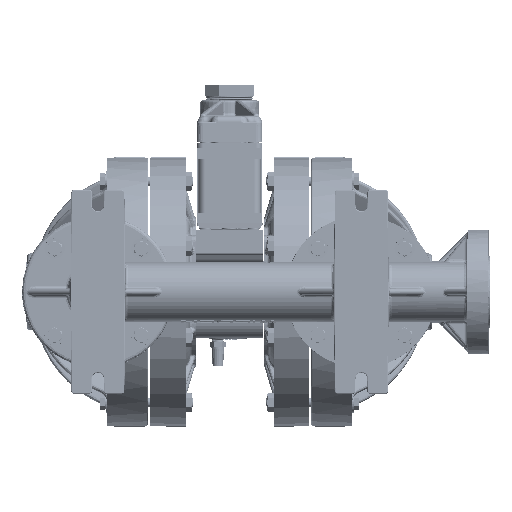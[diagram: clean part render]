
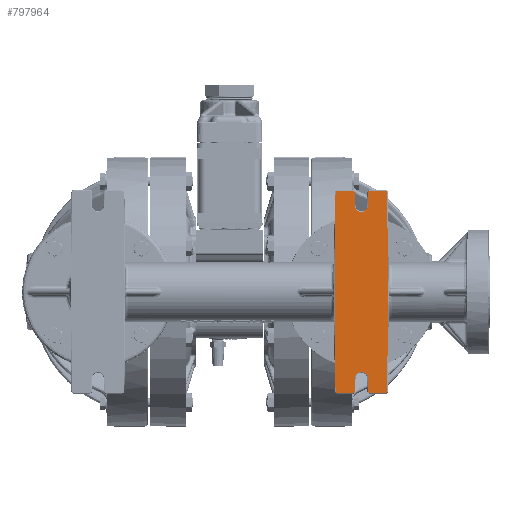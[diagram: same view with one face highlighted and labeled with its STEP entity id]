
A CAD part, front view. The second image highlights one B-rep face of the part: STEP entity #797964.
In plain terms, the highlighted planar face has unit normal (0, -1, 0).
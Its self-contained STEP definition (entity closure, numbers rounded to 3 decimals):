
#545171=DIRECTION('',(-0.009,0.,-1.));
#545172=VECTOR('',#545171,3.976);
#545173=CARTESIAN_POINT('',(4.244,-12.956,3.976));
#545174=LINE('',#545173,#545172);
#545205=DIRECTION('',(1.,0.,0.));
#545206=VECTOR('',#545205,0.606);
#545207=CARTESIAN_POINT('',(4.324,-12.956,-4.055));
#545208=LINE('',#545207,#545206);
#545218=CARTESIAN_POINT('',(4.931,-12.956,-3.975));
#545219=DIRECTION('',(0.,-1.,0.));
#545220=DIRECTION('',(0.,0.,-1.));
#545221=AXIS2_PLACEMENT_3D('',#545218,#545219,#545220);
#545233=DIRECTION('',(0.009,0.,1.));
#545234=VECTOR('',#545233,0.506);
#545235=CARTESIAN_POINT('',(5.011,-12.956,-3.976));
#545236=LINE('',#545235,#545234);
#545267=CARTESIAN_POINT('',(5.28,-12.956,-3.47));
#545268=DIRECTION('',(0.,1.,0.));
#545269=DIRECTION('',(-1.,0.,0.001));
#545270=AXIS2_PLACEMENT_3D('',#545267,#545268,#545269);
#545277=DIRECTION('',(0.009,0.,-1.));
#545278=VECTOR('',#545277,0.506);
#545279=CARTESIAN_POINT('',(5.544,-12.956,-3.47));
#545280=LINE('',#545279,#545278);
#545306=CARTESIAN_POINT('',(5.628,-12.956,-3.975));
#545307=DIRECTION('',(0.,-1.,0.));
#545308=DIRECTION('',(-1.,0.,-0.009));
#545309=AXIS2_PLACEMENT_3D('',#545306,#545307,#545308);
#545321=DIRECTION('',(1.,0.,0.));
#545322=VECTOR('',#545321,0.606);
#545323=CARTESIAN_POINT('',(5.628,-12.956,-4.055));
#545324=LINE('',#545323,#545322);
#545334=CARTESIAN_POINT('',(6.235,-12.956,-3.975));
#545335=DIRECTION('',(0.,-1.,0.));
#545336=DIRECTION('',(0.,0.,-1.));
#545337=AXIS2_PLACEMENT_3D('',#545334,#545335,#545336);
#545349=DIRECTION('',(0.009,0.,1.));
#545350=VECTOR('',#545349,3.976);
#545351=CARTESIAN_POINT('',(6.315,-12.956,-3.976));
#545352=LINE('',#545351,#545350);
#545362=DIRECTION('',(-0.009,0.,1.));
#545363=VECTOR('',#545362,3.976);
#545364=CARTESIAN_POINT('',(6.349,-12.956,0.));
#545365=LINE('',#545364,#545363);
#545391=CARTESIAN_POINT('',(6.235,-12.956,3.975));
#545392=DIRECTION('',(0.,-1.,0.));
#545393=DIRECTION('',(1.,0.,0.009));
#545394=AXIS2_PLACEMENT_3D('',#545391,#545392,#545393);
#545406=DIRECTION('',(-1.,0.,0.));
#545407=VECTOR('',#545406,0.606);
#545408=CARTESIAN_POINT('',(6.235,-12.956,4.055));
#545409=LINE('',#545408,#545407);
#545419=CARTESIAN_POINT('',(5.628,-12.956,3.975));
#545420=DIRECTION('',(0.,-1.,0.));
#545421=DIRECTION('',(0.,0.,1.));
#545422=AXIS2_PLACEMENT_3D('',#545419,#545420,#545421);
#545434=DIRECTION('',(-0.009,0.,-1.));
#545435=VECTOR('',#545434,0.506);
#545436=CARTESIAN_POINT('',(5.548,-12.956,3.976));
#545437=LINE('',#545436,#545435);
#545468=CARTESIAN_POINT('',(5.28,-12.956,3.47));
#545469=DIRECTION('',(0.,1.,0.));
#545470=DIRECTION('',(1.,0.,-0.001));
#545471=AXIS2_PLACEMENT_3D('',#545468,#545469,#545470);
#545478=DIRECTION('',(-0.009,0.,1.));
#545479=VECTOR('',#545478,0.506);
#545480=CARTESIAN_POINT('',(5.015,-12.956,3.47));
#545481=LINE('',#545480,#545479);
#545507=CARTESIAN_POINT('',(4.931,-12.956,3.975));
#545508=DIRECTION('',(0.,-1.,0.));
#545509=DIRECTION('',(1.,0.,0.009));
#545510=AXIS2_PLACEMENT_3D('',#545507,#545508,#545509);
#545522=DIRECTION('',(-1.,0.,0.));
#545523=VECTOR('',#545522,0.606);
#545524=CARTESIAN_POINT('',(4.931,-12.956,4.055));
#545525=LINE('',#545524,#545523);
#545535=CARTESIAN_POINT('',(4.324,-12.956,3.975));
#545536=DIRECTION('',(0.,-1.,0.));
#545537=DIRECTION('',(0.,0.,1.));
#545538=AXIS2_PLACEMENT_3D('',#545535,#545536,#545537);
#548453=CARTESIAN_POINT('',(4.324,-12.956,-3.975));
#548454=DIRECTION('',(0.,-1.,0.));
#548455=DIRECTION('',(-1.,0.,-0.009));
#548456=AXIS2_PLACEMENT_3D('',#548453,#548454,#548455);
#548468=DIRECTION('',(0.009,0.,-1.));
#548469=VECTOR('',#548468,3.976);
#548470=CARTESIAN_POINT('',(4.21,-12.956,0.));
#548471=LINE('',#548470,#548469);
#667556=CARTESIAN_POINT('',(4.324,-12.956,-4.055));
#667557=CARTESIAN_POINT('',(4.931,-12.956,-4.055));
#667558=VERTEX_POINT('',#667556);
#667559=VERTEX_POINT('',#667557);
#667564=CARTESIAN_POINT('',(5.544,-12.956,-3.47));
#667565=CARTESIAN_POINT('',(5.548,-12.956,-3.976));
#667566=VERTEX_POINT('',#667564);
#667567=VERTEX_POINT('',#667565);
#667572=CARTESIAN_POINT('',(5.015,-12.956,-3.47));
#667573=VERTEX_POINT('',#667572);
#667576=CARTESIAN_POINT('',(5.011,-12.956,-3.976));
#667577=VERTEX_POINT('',#667576);
#667580=CARTESIAN_POINT('',(5.628,-12.956,-4.055));
#667581=CARTESIAN_POINT('',(6.235,-12.956,-4.055));
#667582=VERTEX_POINT('',#667580);
#667583=VERTEX_POINT('',#667581);
#667627=CARTESIAN_POINT('',(4.21,-12.956,0.));
#667628=CARTESIAN_POINT('',(4.244,-12.956,-3.976));
#667629=VERTEX_POINT('',#667627);
#667630=VERTEX_POINT('',#667628);
#667635=CARTESIAN_POINT('',(4.244,-12.956,3.976));
#667636=VERTEX_POINT('',#667635);
#667663=CARTESIAN_POINT('',(5.548,-12.956,3.976));
#667664=CARTESIAN_POINT('',(5.544,-12.956,3.47));
#667665=VERTEX_POINT('',#667663);
#667666=VERTEX_POINT('',#667664);
#667671=CARTESIAN_POINT('',(5.015,-12.956,3.47));
#667672=CARTESIAN_POINT('',(5.011,-12.956,3.976));
#667673=VERTEX_POINT('',#667671);
#667674=VERTEX_POINT('',#667672);
#667679=CARTESIAN_POINT('',(6.235,-12.956,4.055));
#667680=CARTESIAN_POINT('',(5.628,-12.956,4.055));
#667681=VERTEX_POINT('',#667679);
#667682=VERTEX_POINT('',#667680);
#667687=CARTESIAN_POINT('',(4.931,-12.956,4.055));
#667688=CARTESIAN_POINT('',(4.324,-12.956,4.055));
#667689=VERTEX_POINT('',#667687);
#667690=VERTEX_POINT('',#667688);
#667712=CARTESIAN_POINT('',(6.349,-12.956,0.));
#667713=CARTESIAN_POINT('',(6.315,-12.956,3.976));
#667714=VERTEX_POINT('',#667712);
#667715=VERTEX_POINT('',#667713);
#667720=CARTESIAN_POINT('',(6.315,-12.956,-3.976));
#667721=VERTEX_POINT('',#667720);
#797914=CARTESIAN_POINT('',(0.,-12.956,0.));
#797915=DIRECTION('',(0.,-1.,0.));
#797916=DIRECTION('',(1.,0.,0.));
#797917=AXIS2_PLACEMENT_3D('',#797914,#797915,#797916);
#797918=PLANE('',#797917);
#797920=ORIENTED_EDGE('',*,*,#797919,.F.);
#797922=ORIENTED_EDGE('',*,*,#797921,.F.);
#797924=ORIENTED_EDGE('',*,*,#797923,.F.);
#797925=ORIENTED_EDGE('',*,*,#797904,.F.);
#797927=ORIENTED_EDGE('',*,*,#797926,.F.);
#797929=ORIENTED_EDGE('',*,*,#797928,.F.);
#797931=ORIENTED_EDGE('',*,*,#797930,.F.);
#797933=ORIENTED_EDGE('',*,*,#797932,.F.);
#797935=ORIENTED_EDGE('',*,*,#797934,.F.);
#797937=ORIENTED_EDGE('',*,*,#797936,.F.);
#797939=ORIENTED_EDGE('',*,*,#797938,.F.);
#797941=ORIENTED_EDGE('',*,*,#797940,.F.);
#797943=ORIENTED_EDGE('',*,*,#797942,.F.);
#797945=ORIENTED_EDGE('',*,*,#797944,.F.);
#797947=ORIENTED_EDGE('',*,*,#797946,.F.);
#797949=ORIENTED_EDGE('',*,*,#797948,.F.);
#797951=ORIENTED_EDGE('',*,*,#797950,.F.);
#797953=ORIENTED_EDGE('',*,*,#797952,.F.);
#797955=ORIENTED_EDGE('',*,*,#797954,.F.);
#797957=ORIENTED_EDGE('',*,*,#797956,.F.);
#797959=ORIENTED_EDGE('',*,*,#797958,.F.);
#797961=ORIENTED_EDGE('',*,*,#797960,.F.);
#797962=EDGE_LOOP('',(#797920,#797922,#797924,#797925,#797927,#797929,#797931,
#797933,#797935,#797937,#797939,#797941,#797943,#797945,#797947,#797949,#797951,
#797953,#797955,#797957,#797959,#797961));
#797963=FACE_OUTER_BOUND('',#797962,.F.);
#545222=CIRCLE('',#545221,0.08);
#545271=CIRCLE('',#545270,0.265);
#545310=CIRCLE('',#545309,0.08);
#545338=CIRCLE('',#545337,0.08);
#545395=CIRCLE('',#545394,0.08);
#545423=CIRCLE('',#545422,0.08);
#545472=CIRCLE('',#545471,0.265);
#545511=CIRCLE('',#545510,0.08);
#545539=CIRCLE('',#545538,0.08);
#548457=CIRCLE('',#548456,0.08);
#797904=EDGE_CURVE('',#667636,#667629,#545174,.T.);
#797919=EDGE_CURVE('',#667558,#667559,#545208,.T.);
#797921=EDGE_CURVE('',#667630,#667558,#548457,.T.);
#797923=EDGE_CURVE('',#667629,#667630,#548471,.T.);
#797926=EDGE_CURVE('',#667690,#667636,#545539,.T.);
#797928=EDGE_CURVE('',#667689,#667690,#545525,.T.);
#797930=EDGE_CURVE('',#667674,#667689,#545511,.T.);
#797932=EDGE_CURVE('',#667673,#667674,#545481,.T.);
#797934=EDGE_CURVE('',#667666,#667673,#545472,.T.);
#797936=EDGE_CURVE('',#667665,#667666,#545437,.T.);
#797938=EDGE_CURVE('',#667682,#667665,#545423,.T.);
#797940=EDGE_CURVE('',#667681,#667682,#545409,.T.);
#797942=EDGE_CURVE('',#667715,#667681,#545395,.T.);
#797944=EDGE_CURVE('',#667714,#667715,#545365,.T.);
#797946=EDGE_CURVE('',#667721,#667714,#545352,.T.);
#797948=EDGE_CURVE('',#667583,#667721,#545338,.T.);
#797950=EDGE_CURVE('',#667582,#667583,#545324,.T.);
#797952=EDGE_CURVE('',#667567,#667582,#545310,.T.);
#797954=EDGE_CURVE('',#667566,#667567,#545280,.T.);
#797956=EDGE_CURVE('',#667573,#667566,#545271,.T.);
#797958=EDGE_CURVE('',#667577,#667573,#545236,.T.);
#797960=EDGE_CURVE('',#667559,#667577,#545222,.T.);
#797964=ADVANCED_FACE('',(#797963),#797918,.T.);
